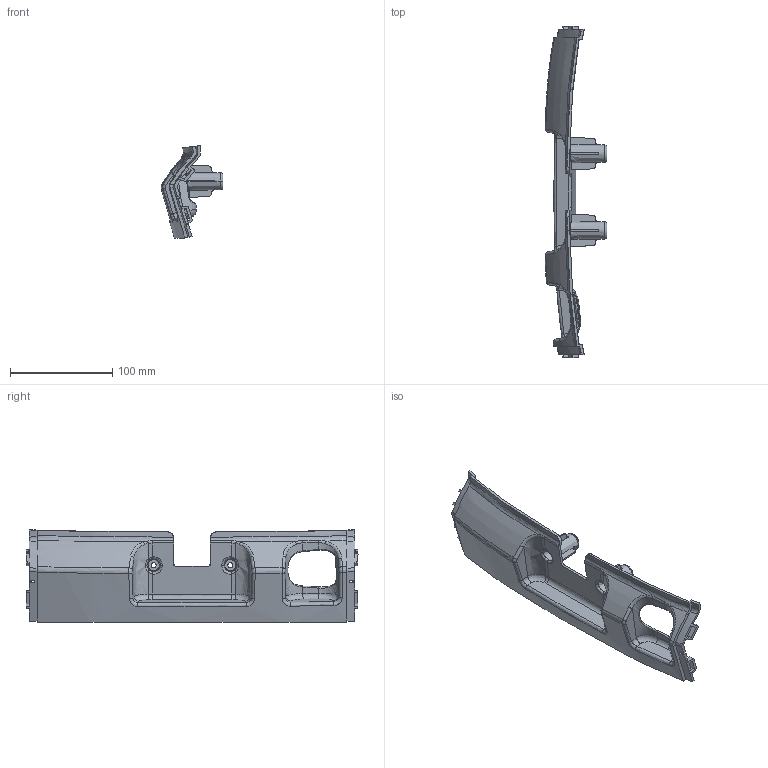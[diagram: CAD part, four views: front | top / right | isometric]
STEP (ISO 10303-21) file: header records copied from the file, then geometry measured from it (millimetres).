
FILE_DESCRIPTION(('CATIA V5 STEP Exchange','CAx-IF Rec.Pracs.--- Model Styling and Organization---1.4--- 2014-01-23'),'2;1');
FILE_NAME('C:\Users\luhaitao\Desktop\塑料件平台项目\塑料件样件清单\07.stp','2025-04-28T01:10:39+00:00',('none'),('none'),'CATIA Version 5-6 Release 2017','CATIA V5 STEP AP214','none');
FILE_SCHEMA(('AUTOMOTIVE_DESIGN { 1 0 10303 214 1 1 1 1 }'));
Products named in the file (1): 07
Bounding box: 60.63 x 324.72 x 90.37 mm (x, y, z)
Volume: 90380.7 mm3; surface area: 76679.2 mm2
Topology: 1 solids, 1 shells, 408 faces, 1189 edges, 773 vertices
Faces by surface type: bspline 309, plane 89, cylinder 10
Entity records: 39505 total; most frequent: CARTESIAN_POINT 31830, ORIENTED_EDGE 2378, EDGE_CURVE 1189, B_SPLINE_CURVE_WITH_KNOTS 1041, VERTEX_POINT 773, EDGE_LOOP 412, ADVANCED_FACE 408, FACE_OUTER_BOUND 408
